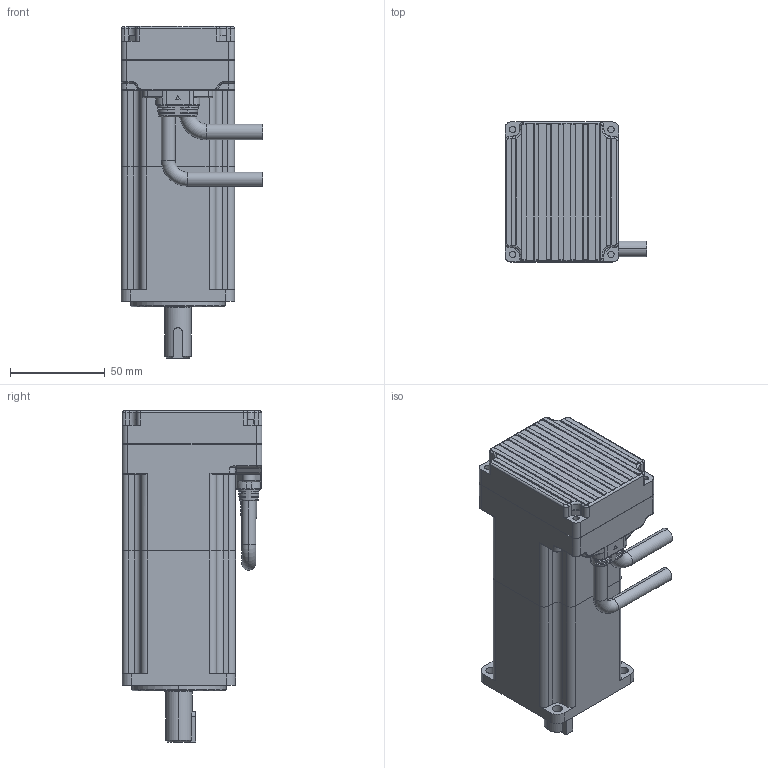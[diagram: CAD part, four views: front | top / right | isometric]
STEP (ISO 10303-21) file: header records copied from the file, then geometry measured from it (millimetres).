
FILE_DESCRIPTION((''),'2;1');
FILE_NAME('000-ISMK-WBK-AA','2023-11-16T16:16:33',('RD0060'),(''),'CREO PARAMETRIC BY PTC INC, 2016510','CREO PARAMETRIC BY PTC INC, 2016510','');
FILE_SCHEMA(('CONFIG_CONTROL_DESIGN'));
Length unit declared in the file: millimetre
Products named in the file (1): 000-ISMK-WBK-AA
Bounding box: 75 x 74 x 175.5 mm (x, y, z)
Surface area: 60013.2 mm2 (no closed solid volume)
Topology: 0 solids, 23 shells, 635 faces, 1851 edges, 1209 vertices
Faces by surface type: cylinder 291, plane 223, torus 84, bspline 24, cone 13
Entity records: 23071 total; most frequent: CARTESIAN_POINT 6323, DIRECTION 3694, ORIENTED_EDGE 3239, EDGE_CURVE 1849, AXIS2_PLACEMENT_3D 1418, VERTEX_POINT 1209, VECTOR 858, LINE 858
